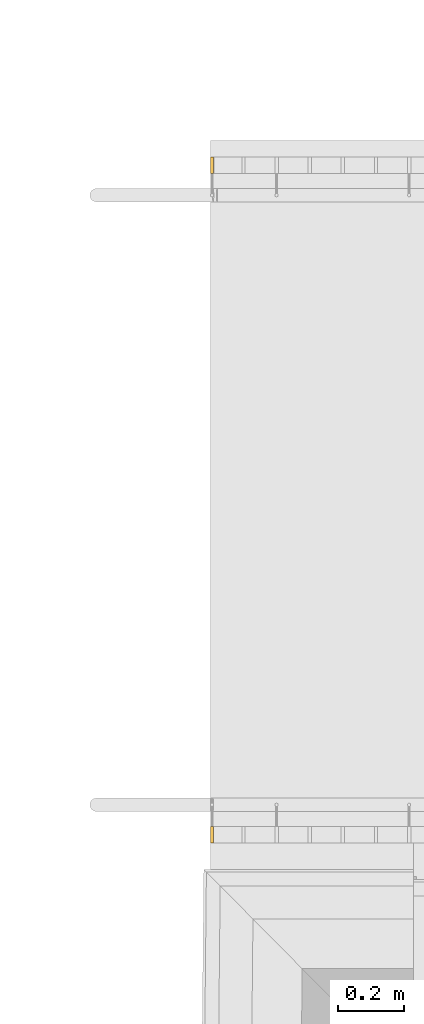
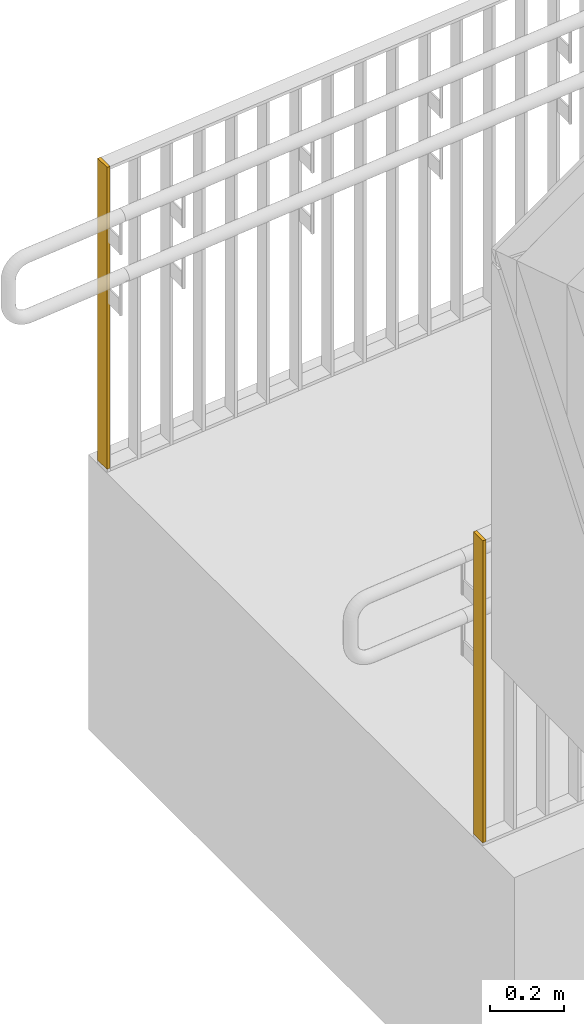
# One storey, part 173 of 418: 2 railings.
"""IFC2X3 building model written with IfcOpenShell, lengths in millimetres."""

from ifc_helpers import new_model, entity, si_unit, converted_unit, derived_unit, money_unit, direction, frame, origin_with_axes, place, context, subcontext, project, spatial, polyline, outline, extrude, boolean, faceted_brep, material, type_object, element, save


model = new_model("IFC2X3")

# Units and contexts
model_context = context("Model", 3, precision=0.01, world=origin_with_axes(), true_north=direction((0.0, 1.0)))
body_context = subcontext(model_context, "Body", "Model", "MODEL_VIEW")
ifc_project = project(units=[si_unit("LENGTHUNIT", "METRE", prefix="MILLI"), si_unit("AREAUNIT", "SQUARE_METRE"), si_unit("VOLUMEUNIT", "CUBIC_METRE"), converted_unit("PLANEANGLEUNIT", "DEGREE", entity("IfcPlaneAngleMeasure", 0.0174532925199), si_unit("PLANEANGLEUNIT", "RADIAN"), dimensions=[0, 0, 0, 0, 0, 0, 0]), si_unit("SOLIDANGLEUNIT", "STERADIAN"), money_unit("EUR"), converted_unit("TIMEUNIT", "Year", entity("IfcTimeMeasure", 31556926.0), si_unit("TIMEUNIT", "SECOND"), dimensions=[0, 0, 1, 0, 0, 0, 0]), si_unit("MASSUNIT", "GRAM", prefix="KILO"), si_unit("THERMODYNAMICTEMPERATUREUNIT", "DEGREE_CELSIUS"), si_unit("LUMINOUSINTENSITYUNIT", "LUMEN"), si_unit("ENERGYUNIT", "JOULE", prefix="MEGA"), derived_unit("THERMALCONDUCTANCEUNIT", [(si_unit("POWERUNIT", "WATT"), 1), (si_unit("LENGTHUNIT", "METRE"), -1), (si_unit("THERMODYNAMICTEMPERATUREUNIT", "KELVIN"), -1)]), derived_unit("SPECIFICHEATCAPACITYUNIT", [(si_unit("ENERGYUNIT", "JOULE"), 1), (si_unit("MASSUNIT", "GRAM", prefix="KILO"), -1), (si_unit("THERMODYNAMICTEMPERATUREUNIT", "KELVIN"), -1)]), derived_unit("MASSDENSITYUNIT", [(si_unit("MASSUNIT", "GRAM", prefix="KILO"), 1), (si_unit("VOLUMEUNIT", "CUBIC_METRE"), -1)])], contexts=[model_context])

# Site, building, storey
site_placement = place(None, origin_with_axes())
site = spatial("IfcSite", under=ifc_project, at=site_placement, Name="Paldiski mnt 245/1, Tallinn, Harjumaa", CompositionType="COMPLEX")
building_placement = place(site_placement, origin_with_axes())
building = spatial("IfcBuilding", under=site, at=building_placement, Name="RKAS Hoone üldnimetus (kasutust iseloomustav) -> IFC Project Manager -> SOLIBRI", CompositionType="ELEMENT")
storey_placement = place(building_placement, origin_with_axes())
storey = spatial("IfcBuildingStorey", under=building, at=storey_placement, Name="Esimene korrus", CompositionType="ELEMENT", Elevation=0.0)

# Railings
ifc_material = material(Name="RAL7016")
railing_type = type_object("IfcRailingType", Name="RAL7016 1000", PredefinedType="NOTDEFINED")
railing_1_placement = place(storey_placement, frame((-50833.288767, 38489.7311931, -669.703891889), z_axis=(0.0, 0.0, 1.0), x_axis=(0.0, 1.0, 0.0)))
element("IfcRailing", 1, at=railing_1_placement, inside=storey, type_object=railing_type, material=ifc_material, Name="Trepipiire", PredefinedType="NOTDEFINED", context=body_context, shape_type="CSG", body=[
    boolean("DIFFERENCE", extrude(outline(polyline([(-2.03925765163e-09, 9080.0), (49.999999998, 9080.0), (49.9999999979, 9090.0000074), (-2.0605739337e-09, 9090.0000074), (-2.03925765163e-09, 9080.0)])), origin_with_axes(), (0.0, 0.0, 1.0), 1000.0), faceted_brep([(49.9999999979, 9090.0000074, 9.36358070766), (49.9999999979, 9080.0, 10.3635814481), (49.999999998, 9080.0, 0.0), (49.9999999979, 9090.0000074, 0.0), (-2.0605739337e-09, 9080.0, 10.3635814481), (-2.0605739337e-09, 9090.0000074, 9.36358070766), (-2.04636307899e-09, 9080.0, 0.0), (-2.0605739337e-09, 9090.0000074, 0.0)], [[[0, 1, 2, 3]], [[4, 1, 0, 5]], [[1, 4, 6, 2]], [[2, 6, 7, 3]], [[5, 0, 3, 7]], [[4, 5, 7, 6]]])),
])
railing_2_placement = place(storey_placement, frame((-50833.288767, 36464.8286725, -669.703891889), z_axis=(0.0, 0.0, 1.0), x_axis=(0.0, 1.0, 0.0)))
element("IfcRailing", 2, at=railing_2_placement, inside=storey, type_object=railing_type, material=ifc_material, Name="Trepipiire", PredefinedType="NOTDEFINED", context=body_context, shape_type="CSG", body=[
    boolean("DIFFERENCE", extrude(outline(polyline([(55.0000000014, 9080.0), (55.0000000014, 9090.0000074), (5.00000000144, 9090.0000074), (5.00000000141, 9080.0), (55.0000000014, 9080.0)])), origin_with_axes(), (0.0, 0.0, 1.0), 1000.0), faceted_brep([(55.0000000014, 9090.0000074, 9.36358070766), (55.0000000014, 9080.0, 10.3635814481), (55.0000000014, 9080.0, 0.0), (55.0000000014, 9090.0000074, 0.0), (5.00000000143, 9080.0, 10.3635814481), (5.00000000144, 9090.0000074, 9.36358070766), (5.00000000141, 9080.0, 0.0), (5.00000000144, 9090.0000074, 0.0)], [[[0, 1, 2, 3]], [[4, 1, 0, 5]], [[1, 4, 6, 2]], [[3, 2, 6, 7]], [[5, 0, 3, 7]], [[4, 5, 7, 6]]])),
])

save(model, "model.ifc")
